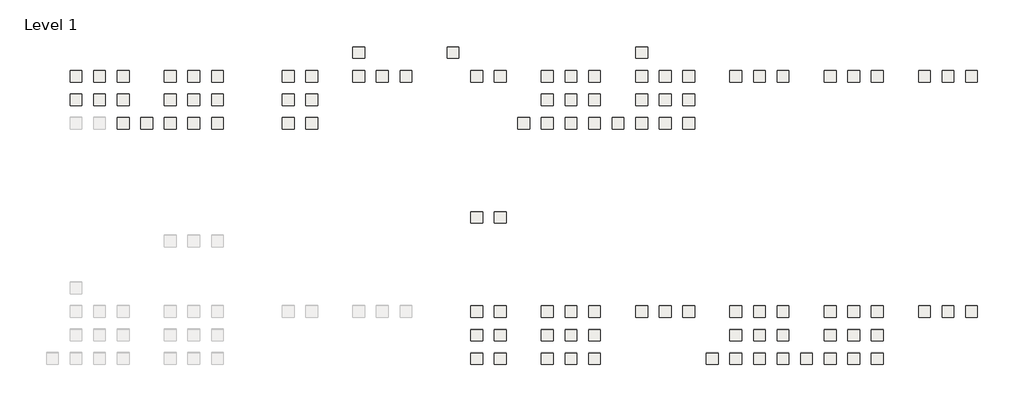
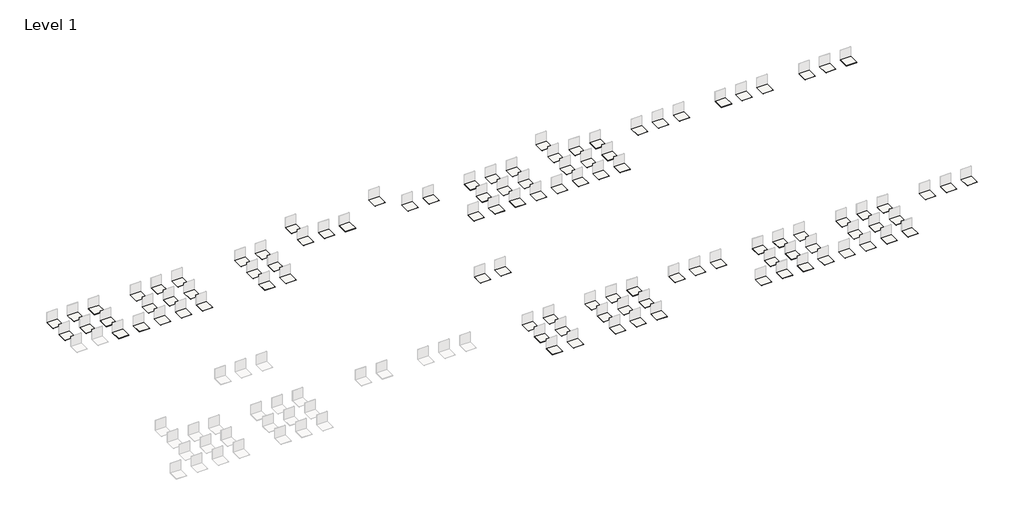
# One storey, part 4 of 4: 103 coverings.
"""IFC4 building model written with IfcOpenShell, lengths in millimetres."""

import ifcopenshell
import ifcopenshell.guid

model = None  # the IFC model being written
_history = None  # IfcOwnerHistory: only IFC2X3 demands one
_inside = {}  # id of a spatial element -> (the spatial element, [elements in it])
_under = {}  # id of a project, library or spatial element -> (it, [spatial elements below it])
_declared = {}  # id of a project -> (the project, [libraries it declares])
_typed = {}  # id of a type object -> (the type object, [elements of that type])
_made_of = {}  # id of a material, layer set ... -> (it, [elements and type objects made of it])


def new_model(schema):
    """Start an empty IFC model of exactly this schema.

    Asked for "IFC4X3", IfcOpenShell would pick the latest addendum, in which some entities
    have other attributes; the version numbers below select the first issue.
    IFC2X3 requires an IfcOwnerHistory on every rooted entity: one is made here for all.
    """
    global model, _history
    if schema == "IFC4X3":
        model = ifcopenshell.file(schema_version=(4, 3, 0, 0))
    else:
        model = ifcopenshell.file(schema=schema)
    _inside.clear()
    _under.clear()
    _declared.clear()
    _typed.clear()
    _made_of.clear()
    _history = None
    if model.schema == "IFC2X3":
        org = make("IfcOrganization", Name="unknown")
        user = make(
            "IfcPersonAndOrganization",
            ThePerson=make("IfcPerson", FamilyName="unknown"),
            TheOrganization=org,
        )
        app = make(
            "IfcApplication",
            ApplicationDeveloper=org,
            Version="unknown",
            ApplicationFullName="unknown",
            ApplicationIdentifier="unknown",
        )
        _history = make(
            "IfcOwnerHistory",
            OwningUser=user,
            OwningApplication=app,
            ChangeAction="ADDED",
            CreationDate=0,
        )
    return model


def make(cls, **values):
    """One entity of the class cls with the attributes given. An attribute that is None is left unset."""
    return model.create_entity(
        cls, **{name: value for name, value in values.items() if value is not None}
    )


def rooted(cls, **values):
    """An entity with a GlobalId (a new one), such as an element, a storey or a relation."""
    return make(cls, GlobalId=ifcopenshell.guid.new(), OwnerHistory=_history, **values)


def si_unit(unit_type, name, prefix=None):
    """IfcSIUnit, for example si_unit("LENGTHUNIT", "METRE", prefix="MILLI")."""
    return make("IfcSIUnit", UnitType=unit_type, Prefix=prefix, Name=name)


def assignment(units):
    """IfcUnitAssignment: the units of a project."""
    return None if units is None else make("IfcUnitAssignment", Units=units)


def point(xyz):
    """IfcCartesianPoint."""
    return None if xyz is None else make("IfcCartesianPoint", Coordinates=xyz)


def direction(xyz):
    """IfcDirection."""
    return None if xyz is None else make("IfcDirection", DirectionRatios=xyz)


def frame(location, z_axis=None, x_axis=None):
    """IfcAxis2Placement3D, a coordinate frame: its origin and axes. An axis left out is left unset."""
    return make(
        "IfcAxis2Placement3D",
        Location=point(location),
        Axis=direction(z_axis),
        RefDirection=direction(x_axis),
    )


def origin():
    """The frame at (0, 0, 0) with its axes left unset."""
    return frame((0.0, 0.0, 0.0))


def place(relative_to, where):
    """IfcLocalPlacement: puts the frame where relative to a parent placement (None: the world)."""
    return make(
        "IfcLocalPlacement", PlacementRelTo=relative_to, RelativePlacement=where
    )


def context(
    kind, dimensions, precision=None, world=None, true_north=None, identifier=None
):
    """IfcGeometricRepresentationContext, for example the 3D "Model" context."""
    return make(
        "IfcGeometricRepresentationContext",
        ContextIdentifier=identifier,
        ContextType=kind,
        CoordinateSpaceDimension=dimensions,
        Precision=precision,
        WorldCoordinateSystem=world,
        TrueNorth=true_north,
    )


def project(units=None, contexts=None):
    """IfcProject with its units and contexts."""
    return rooted(
        "IfcProject",
        Name="project",
        RepresentationContexts=contexts,
        UnitsInContext=assignment(units),
    )


def spatial(cls, under=None, at=None, **own):
    """A site, building, storey or space (cls), placed at a placement, below another one or the project."""
    s = rooted(cls, ObjectPlacement=at, **own)
    if under is not None:
        _under.setdefault(under.id(), (under, []))[1].append(s)
    return s


def polyline(points):
    """IfcPolyline through the points."""
    return make("IfcPolyline", Points=[point(p) for p in points])


def outline(outer, holes=None, kind="AREA"):
    """IfcArbitraryClosedProfileDef: a profile drawn as a closed curve; with holes, ...WithVoids."""
    if holes is None:
        return make("IfcArbitraryClosedProfileDef", ProfileType=kind, OuterCurve=outer)
    return make(
        "IfcArbitraryProfileDefWithVoids",
        ProfileType=kind,
        OuterCurve=outer,
        InnerCurves=holes,
    )


def extrude(swept, where, along, depth):
    """IfcExtrudedAreaSolid: the profile swept, set in the frame where, extruded along a direction by depth."""
    return make(
        "IfcExtrudedAreaSolid",
        SweptArea=swept,
        Position=where,
        ExtrudedDirection=direction(along),
        Depth=depth,
    )


def shape(context_of_items, identifier, shape_type, items):
    """IfcShapeRepresentation: the items that make up one representation, for example the "Body"."""
    return make(
        "IfcShapeRepresentation",
        ContextOfItems=context_of_items,
        RepresentationIdentifier=identifier,
        RepresentationType=shape_type,
        Items=items,
    )


def made_of(thing, what):
    """Note that an element or type object is made of a material, layer set ...; save() writes the relation."""
    if what is not None:
        _made_of.setdefault(what.id(), (what, []))[1].append(thing)
    return thing


def element(
    cls,
    number,
    at=None,
    inside=None,
    cuts=None,
    type_object=None,
    material=None,
    context=None,
    identifier="Body",
    shape_type=None,
    held_by="IfcProductDefinitionShape",
    body=None,
    shapes=None,
    **own,
):
    """One element of the class cls, such as IfcWall. Its Tag is "e" and its number.

    at: its placement. inside: the storey or other place that contains it. cuts: it is an
    opening in that element (IfcRelVoidsElement). A single representation is given by context,
    identifier, shape_type and body (its items); several are given by shapes. held_by: the class
    of the entity that holds the representations. save() writes the other relations.
    """
    e = rooted(cls, Tag="e%d" % number, ObjectPlacement=at, **own)
    if body is not None:
        shapes = [shape(context, identifier, shape_type, body)]
    if shapes is not None:
        e.Representation = make(held_by, Representations=shapes)
    if inside is not None:
        _inside.setdefault(inside.id(), (inside, []))[1].append(e)
    if cuts is not None:
        rooted(
            "IfcRelVoidsElement", RelatingBuildingElement=cuts, RelatedOpeningElement=e
        )
    if type_object is not None:
        _typed.setdefault(type_object.id(), (type_object, []))[1].append(e)
    return made_of(e, material)


def aggregate(whole, parts):
    """IfcRelAggregates: a whole, such as a stair, and the parts it consists of."""
    return rooted("IfcRelAggregates", RelatingObject=whole, RelatedObjects=parts)


def save(model, path):
    """Write the relations noted so far, then the file.

    IfcRelAggregates (storeys below a building ...), IfcRelContainedInSpatialStructure (elements
    in a storey), IfcRelDefinesByType, IfcRelAssociatesMaterial and IfcRelDeclares: one each for
    every whole, place, type object, material and project.
    """
    for whole, parts in _under.values():
        aggregate(whole, parts)
    for where, things in _inside.values():
        rooted(
            "IfcRelContainedInSpatialStructure",
            RelatedElements=things,
            RelatingStructure=where,
        )
    for kind, things in _typed.values():
        rooted("IfcRelDefinesByType", RelatedObjects=things, RelatingType=kind)
    for what, things in _made_of.values():
        rooted("IfcRelAssociatesMaterial", RelatedObjects=things, RelatingMaterial=what)
    for by, libraries in _declared.values():
        rooted("IfcRelDeclares", RelatingContext=by, RelatedDefinitions=libraries)
    model.write(path)


model = new_model("IFC4")

# Units and contexts
model_context = context("Model", 3, world=origin())
ifc_project = project(units=[si_unit("LENGTHUNIT", "METRE", prefix="MILLI")], contexts=[model_context])

# Site, building, storey
site = spatial("IfcSite", under=ifc_project)
building = spatial("IfcBuilding", under=site)
storey = spatial("IfcBuildingStorey", under=building, Name="Level 1", Elevation=0.0)

# Coverings
placement = place(None, origin())
element("IfcCovering", 1, ObjectType="REVIGRÉS-CROMATICA-BASE-29,7x59,2-MATTRECT-Cromatica_alloy", at=placement, inside=storey, context=model_context, shape_type="SweptSolid", body=[
    extrude(outline(polyline([(3002.0475963, 28398.4324289), (2002.0475963, 28398.4324289), (2002.0475963, 29398.4324289), (3002.0475963, 29398.4324289), (3002.0475963, 28398.4324289)])), frame((0.0, 0.0, -8.5), z_axis=(0.0, 0.0, 1.0), x_axis=(1.0, 0.0, 0.0)), (0.0, 0.0, 1.0), 8.5),
])
element("IfcCovering", 2, ObjectType="REVIGRÉS-CROMATICA-BASE-59,2x59,2-MATTRECT-Cromatica_alloy", at=placement, inside=storey, context=model_context, shape_type="SweptSolid", body=[
    extrude(outline(polyline([(3002.0475963, 30398.4324289), (2002.0475963, 30398.4324289), (2002.0475963, 31398.4324289), (3002.0475963, 31398.4324289), (3002.0475963, 30398.4324289)])), frame((0.0, 0.0, -8.5), z_axis=(0.0, 0.0, 1.0), x_axis=(1.0, 0.0, 0.0)), (0.0, 0.0, 1.0), 8.5),
])
element("IfcCovering", 3, ObjectType="REVIGRÉS-CROMATICA-BASE-29,7x59,2-POL-Cromatica_alloy", at=placement, inside=storey, context=model_context, shape_type="SweptSolid", body=[
    extrude(outline(polyline([(5002.0475963, 28398.4324289), (4002.0475963, 28398.4324289), (4002.0475963, 29398.4324289), (5002.0475963, 29398.4324289), (5002.0475963, 28398.4324289)])), frame((0.0, 0.0, -8.0), z_axis=(0.0, 0.0, 1.0), x_axis=(1.0, 0.0, 0.0)), (0.0, 0.0, 1.0), 8.0),
])
element("IfcCovering", 4, ObjectType="REVIGRÉS-CROMATICA-BASE-59,2x59,2-POL-Cromatica_alloy", at=placement, inside=storey, context=model_context, shape_type="SweptSolid", body=[
    extrude(outline(polyline([(5002.0475963, 30398.4324289), (4002.0475963, 30398.4324289), (4002.0475963, 31398.4324289), (5002.0475963, 31398.4324289), (5002.0475963, 30398.4324289)])), frame((0.0, 0.0, -8.0), z_axis=(0.0, 0.0, 1.0), x_axis=(1.0, 0.0, 0.0)), (0.0, 0.0, 1.0), 8.0),
])
element("IfcCovering", 5, ObjectType="REVIGRÉS-CROMATICA-BASE-29,7x29,7-SOFT-Cromatica_alloy", at=placement, inside=storey, context=model_context, shape_type="SweptSolid", body=[
    extrude(outline(polyline([(7002.0475963, 26398.4324289), (6002.0475963, 26398.4324289), (6002.0475963, 27398.4324289), (7002.0475963, 27398.4324289), (7002.0475963, 26398.4324289)])), frame((0.0, 0.0, -8.5), z_axis=(0.0, 0.0, 1.0), x_axis=(1.0, 0.0, 0.0)), (0.0, 0.0, 1.0), 8.5),
])
element("IfcCovering", 6, ObjectType="REVIGRÉS-CROMATICA-BASE-29,7x59,2-SOFT-Cromatica_alloy", at=placement, inside=storey, context=model_context, shape_type="SweptSolid", body=[
    extrude(outline(polyline([(7002.0475963, 28398.4324289), (6002.0475963, 28398.4324289), (6002.0475963, 29398.4324289), (7002.0475963, 29398.4324289), (7002.0475963, 28398.4324289)])), frame((0.0, 0.0, -8.5), z_axis=(0.0, 0.0, 1.0), x_axis=(1.0, 0.0, 0.0)), (0.0, 0.0, 1.0), 8.5),
])
element("IfcCovering", 7, ObjectType="REVIGRÉS-CROMATICA-BASE-59,2x59,2-SOFT-Cromatica_alloy", at=placement, inside=storey, context=model_context, shape_type="SweptSolid", body=[
    extrude(outline(polyline([(7002.0475963, 30398.4324289), (6002.0475963, 30398.4324289), (6002.0475963, 31398.4324289), (7002.0475963, 31398.4324289), (7002.0475963, 30398.4324289)])), frame((0.0, 0.0, -8.5), z_axis=(0.0, 0.0, 1.0), x_axis=(1.0, 0.0, 0.0)), (0.0, 0.0, 1.0), 8.5),
])
element("IfcCovering", 8, ObjectType="REVIGRÉS-CROMATICA-BASE-29,7x29,7-MATTRECT-Cromatica_anis", at=placement, inside=storey, context=model_context, shape_type="SweptSolid", body=[
    extrude(outline(polyline([(11002.0475963, 26398.4324289), (10002.0475963, 26398.4324289), (10002.0475963, 27398.4324289), (11002.0475963, 27398.4324289), (11002.0475963, 26398.4324289)])), frame((0.0, 0.0, -8.5), z_axis=(0.0, 0.0, 1.0), x_axis=(1.0, 0.0, 0.0)), (0.0, 0.0, 1.0), 8.5),
])
element("IfcCovering", 9, ObjectType="REVIGRÉS-CROMATICA-BASE-29,7x59,2-MATTRECT-Cromatica_anis", at=placement, inside=storey, context=model_context, shape_type="SweptSolid", body=[
    extrude(outline(polyline([(11002.0475963, 28398.4324289), (10002.0475963, 28398.4324289), (10002.0475963, 29398.4324289), (11002.0475963, 29398.4324289), (11002.0475963, 28398.4324289)])), frame((0.0, 0.0, -8.5), z_axis=(0.0, 0.0, 1.0), x_axis=(1.0, 0.0, 0.0)), (0.0, 0.0, 1.0), 8.5),
])
element("IfcCovering", 10, ObjectType="REVIGRÉS-CROMATICA-BASE-59,2x59,2-MATTRECT-Cromatica_anis", at=placement, inside=storey, context=model_context, shape_type="SweptSolid", body=[
    extrude(outline(polyline([(11002.0475963, 30398.4324289), (10002.0475963, 30398.4324289), (10002.0475963, 31398.4324289), (11002.0475963, 31398.4324289), (11002.0475963, 30398.4324289)])), frame((0.0, 0.0, -8.5), z_axis=(0.0, 0.0, 1.0), x_axis=(1.0, 0.0, 0.0)), (0.0, 0.0, 1.0), 8.5),
])
element("IfcCovering", 11, ObjectType="REVIGRÉS-CROMATICA-BASE-29,7x29,7-POL-Cromatica_anis", at=placement, inside=storey, context=model_context, shape_type="SweptSolid", body=[
    extrude(outline(polyline([(13002.0475963, 26398.4324289), (12002.0475963, 26398.4324289), (12002.0475963, 27398.6824289), (13002.0475963, 27398.6824289), (13002.0475963, 26398.4324289)])), frame((0.0, 0.0, -8.0), z_axis=(0.0, 0.0, 1.0), x_axis=(1.0, 0.0, 0.0)), (0.0, 0.0, 1.0), 8.0),
])
element("IfcCovering", 12, ObjectType="REVIGRÉS-CROMATICA-BASE-29,7x59,2-POL-Cromatica_anis", at=placement, inside=storey, context=model_context, shape_type="SweptSolid", body=[
    extrude(outline(polyline([(13002.0475963, 28398.4324289), (12002.0475963, 28398.4324289), (12002.0475963, 29398.4324289), (13002.0475963, 29398.4324289), (13002.0475963, 28398.4324289)])), frame((0.0, 0.0, -8.0), z_axis=(0.0, 0.0, 1.0), x_axis=(1.0, 0.0, 0.0)), (0.0, 0.0, 1.0), 8.0),
])
element("IfcCovering", 13, ObjectType="REVIGRÉS-CROMATICA-BASE-59,2x59,2-POL-Cromatica_anis", at=placement, inside=storey, context=model_context, shape_type="SweptSolid", body=[
    extrude(outline(polyline([(13002.0475963, 30398.4324289), (12002.0475963, 30398.4324289), (12002.0475963, 31398.4324289), (13002.0475963, 31398.4324289), (13002.0475963, 30398.4324289)])), frame((0.0, 0.0, -8.0), z_axis=(0.0, 0.0, 1.0), x_axis=(1.0, 0.0, 0.0)), (0.0, 0.0, 1.0), 8.0),
])
element("IfcCovering", 14, ObjectType="REVIGRÉS-CROMATICA-BASE-29,7x29,7-SOFT-Cromatica_anis", at=placement, inside=storey, context=model_context, shape_type="SweptSolid", body=[
    extrude(outline(polyline([(15002.0475963, 26398.4324289), (14002.0475963, 26398.4324289), (14002.0475963, 27398.4324289), (15002.0475963, 27398.4324289), (15002.0475963, 26398.4324289)])), frame((0.0, 0.0, -8.5), z_axis=(0.0, 0.0, 1.0), x_axis=(1.0, 0.0, 0.0)), (0.0, 0.0, 1.0), 8.5),
])
element("IfcCovering", 15, ObjectType="REVIGRÉS-CROMATICA-BASE-29,7x59,2-SOFT-Cromatica_anis", at=placement, inside=storey, context=model_context, shape_type="SweptSolid", body=[
    extrude(outline(polyline([(15002.0475963, 28398.4324289), (14002.0475963, 28398.4324289), (14002.0475963, 29398.4324289), (15002.0475963, 29398.4324289), (15002.0475963, 28398.4324289)])), frame((0.0, 0.0, -8.5), z_axis=(0.0, 0.0, 1.0), x_axis=(1.0, 0.0, 0.0)), (0.0, 0.0, 1.0), 8.5),
])
element("IfcCovering", 16, ObjectType="REVIGRÉS-CROMATICA-BASE-59,2x59,2-SOFT-Cromatica_anis", at=placement, inside=storey, context=model_context, shape_type="SweptSolid", body=[
    extrude(outline(polyline([(15002.0475963, 30398.4324289), (14002.0475963, 30398.4324289), (14002.0475963, 31398.4324289), (15002.0475963, 31398.4324289), (15002.0475963, 30398.4324289)])), frame((0.0, 0.0, -8.5), z_axis=(0.0, 0.0, 1.0), x_axis=(1.0, 0.0, 0.0)), (0.0, 0.0, 1.0), 8.5),
])
element("IfcCovering", 17, ObjectType="REVIGRÉS-CROMATICA-BASE-29,7x29,7-POL-Cromatica_antracite", at=placement, inside=storey, context=model_context, shape_type="SweptSolid", body=[
    extrude(outline(polyline([(21002.0475963, 26398.4324289), (20002.0475963, 26398.4324289), (20002.0475963, 27398.6824289), (21002.0475963, 27398.6824289), (21002.0475963, 26398.4324289)])), frame((0.0, 0.0, -8.0), z_axis=(0.0, 0.0, 1.0), x_axis=(1.0, 0.0, 0.0)), (0.0, 0.0, 1.0), 8.0),
])
element("IfcCovering", 18, ObjectType="REVIGRÉS-CROMATICA-BASE-29,7x59,2-POL-Cromatica_antracite", at=placement, inside=storey, context=model_context, shape_type="SweptSolid", body=[
    extrude(outline(polyline([(21002.0475963, 28398.4324289), (20002.0475963, 28398.4324289), (20002.0475963, 29398.4324289), (21002.0475963, 29398.4324289), (21002.0475963, 28398.4324289)])), frame((0.0, 0.0, -8.0), z_axis=(0.0, 0.0, 1.0), x_axis=(1.0, 0.0, 0.0)), (0.0, 0.0, 1.0), 8.0),
])
element("IfcCovering", 19, ObjectType="REVIGRÉS-CROMATICA-BASE-59,2x59,2-POL-Cromatica_antracite", at=placement, inside=storey, context=model_context, shape_type="SweptSolid", body=[
    extrude(outline(polyline([(21002.0475963, 30398.4324289), (20002.0475963, 30398.4324289), (20002.0475963, 31398.4324289), (21002.0475963, 31398.4324289), (21002.0475963, 30398.4324289)])), frame((0.0, 0.0, -8.0), z_axis=(0.0, 0.0, 1.0), x_axis=(1.0, 0.0, 0.0)), (0.0, 0.0, 1.0), 8.0),
])
element("IfcCovering", 20, ObjectType="REVIGRÉS-CROMATICA-BASE-29,7x29,7-SOFT-Cromatica_antracite", at=placement, inside=storey, context=model_context, shape_type="SweptSolid", body=[
    extrude(outline(polyline([(23002.0475963, 26398.4324289), (22002.0475963, 26398.4324289), (22002.0475963, 27398.4324289), (23002.0475963, 27398.4324289), (23002.0475963, 26398.4324289)])), frame((0.0, 0.0, -8.5), z_axis=(0.0, 0.0, 1.0), x_axis=(1.0, 0.0, 0.0)), (0.0, 0.0, 1.0), 8.5),
])
element("IfcCovering", 21, ObjectType="REVIGRÉS-CROMATICA-BASE-29,7x59,2-SOFT-Cromatica_antracite", at=placement, inside=storey, context=model_context, shape_type="SweptSolid", body=[
    extrude(outline(polyline([(23002.0475963, 28398.4324289), (22002.0475963, 28398.4324289), (22002.0475963, 29398.4324289), (23002.0475963, 29398.4324289), (23002.0475963, 28398.4324289)])), frame((0.0, 0.0, -8.5), z_axis=(0.0, 0.0, 1.0), x_axis=(1.0, 0.0, 0.0)), (0.0, 0.0, 1.0), 8.5),
])
element("IfcCovering", 22, ObjectType="REVIGRÉS-CROMATICA-BASE-59,2x59,2-SOFT-Cromatica_antracite", at=placement, inside=storey, context=model_context, shape_type="SweptSolid", body=[
    extrude(outline(polyline([(23002.0475963, 30398.4324289), (22002.0475963, 30398.4324289), (22002.0475963, 31398.4324289), (23002.0475963, 31398.4324289), (23002.0475963, 30398.4324289)])), frame((0.0, 0.0, -8.5), z_axis=(0.0, 0.0, 1.0), x_axis=(1.0, 0.0, 0.0)), (0.0, 0.0, 1.0), 8.5),
])
element("IfcCovering", 23, ObjectType="REVIGRÉS-CROMATICA-BASE-59,2x59,2-MATTRECT-Cromatica_arg prata", at=placement, inside=storey, context=model_context, shape_type="SweptSolid", body=[
    extrude(outline(polyline([(27002.0475963, 30398.4324289), (26002.0475963, 30398.4324289), (26002.0475963, 31398.4324289), (27002.0475963, 31398.4324289), (27002.0475963, 30398.4324289)])), frame((0.0, 0.0, -8.5), z_axis=(0.0, 0.0, 1.0), x_axis=(1.0, 0.0, 0.0)), (0.0, 0.0, 1.0), 8.5),
])
element("IfcCovering", 24, ObjectType="REVIGRÉS-CROMATICA-BASE-59,2x59,2_14mm-MATTRECT-Cromatica_arg prata", at=placement, inside=storey, context=model_context, shape_type="SweptSolid", body=[
    extrude(outline(polyline([(27002.0475963, 32398.4324289), (26002.0475963, 32398.4324289), (26002.0475963, 33398.4324289), (27002.0475963, 33398.4324289), (27002.0475963, 32398.4324289)])), frame((0.0, 0.0, -14.0), z_axis=(0.0, 0.0, 1.0), x_axis=(1.0, 0.0, 0.0)), (0.0, 0.0, 1.0), 14.0),
])
element("IfcCovering", 25, ObjectType="REVIGRÉS-CROMATICA-BASE-59,2x59,2-POL-Cromatica_arg prata", at=placement, inside=storey, context=model_context, shape_type="SweptSolid", body=[
    extrude(outline(polyline([(29002.0475963, 30398.4324289), (28002.0475963, 30398.4324289), (28002.0475963, 31398.4324289), (29002.0475963, 31398.4324289), (29002.0475963, 30398.4324289)])), frame((0.0, 0.0, -8.0), z_axis=(0.0, 0.0, 1.0), x_axis=(1.0, 0.0, 0.0)), (0.0, 0.0, 1.0), 8.0),
])
element("IfcCovering", 26, ObjectType="REVIGRÉS-CROMATICA-BASE-59,2x59,2-SOFT-Cromatica_arg prata", at=placement, inside=storey, context=model_context, shape_type="SweptSolid", body=[
    extrude(outline(polyline([(31002.0475963, 30398.4324289), (30002.0475963, 30398.4324289), (30002.0475963, 31398.4324289), (31002.0475963, 31398.4324289), (31002.0475963, 30398.4324289)])), frame((0.0, 0.0, -8.5), z_axis=(0.0, 0.0, 1.0), x_axis=(1.0, 0.0, 0.0)), (0.0, 0.0, 1.0), 8.5),
])
element("IfcCovering", 27, ObjectType="REVIGRÉS-CROMATICA-BASE-59,2x59,2_14mm-MATTRECT-Cromatica_astral", at=placement, inside=storey, context=model_context, shape_type="SweptSolid", body=[
    extrude(outline(polyline([(35002.0475963, 32398.4324289), (34002.0475963, 32398.4324289), (34002.0475963, 33398.4324289), (35002.0475963, 33398.4324289), (35002.0475963, 32398.4324289)])), frame((0.0, 0.0, -14.0), z_axis=(0.0, 0.0, 1.0), x_axis=(1.0, 0.0, 0.0)), (0.0, 0.0, 1.0), 14.0),
])
element("IfcCovering", 28, ObjectType="REVIGRÉS-CROMATICA-BASE-59,2x59,2-POL-Cromatica_astral", at=placement, inside=storey, context=model_context, shape_type="SweptSolid", body=[
    extrude(outline(polyline([(37002.0475963, 30398.4324289), (36002.0475963, 30398.4324289), (36002.0475963, 31398.4324289), (37002.0475963, 31398.4324289), (37002.0475963, 30398.4324289)])), frame((0.0, 0.0, -8.0), z_axis=(0.0, 0.0, 1.0), x_axis=(1.0, 0.0, 0.0)), (0.0, 0.0, 1.0), 8.0),
])
element("IfcCovering", 29, ObjectType="REVIGRÉS-CROMATICA-BASE-59,2x59,2-SOFT-Cromatica_astral", at=placement, inside=storey, context=model_context, shape_type="SweptSolid", body=[
    extrude(outline(polyline([(39002.0475963, 30398.4324289), (38002.0475963, 30398.4324289), (38002.0475963, 31398.4324289), (39002.0475963, 31398.4324289), (39002.0475963, 30398.4324289)])), frame((0.0, 0.0, -8.5), z_axis=(0.0, 0.0, 1.0), x_axis=(1.0, 0.0, 0.0)), (0.0, 0.0, 1.0), 8.5),
])
element("IfcCovering", 30, ObjectType="REVIGRÉS-CROMATICA-BASE-29,7x29,7-MATTRECT-Cromatica_bege", at=placement, inside=storey, context=model_context, shape_type="SweptSolid", body=[
    extrude(outline(polyline([(43002.0475963, 26398.4324289), (42002.0475963, 26398.4324289), (42002.0475963, 27398.4324289), (43002.0475963, 27398.4324289), (43002.0475963, 26398.4324289)])), frame((0.0, 0.0, -8.5), z_axis=(0.0, 0.0, 1.0), x_axis=(1.0, 0.0, 0.0)), (0.0, 0.0, 1.0), 8.5),
])
element("IfcCovering", 31, ObjectType="REVIGRÉS-CROMATICA-BASE-29,7x59,2-MATTRECT-Cromatica_bege", at=placement, inside=storey, context=model_context, shape_type="SweptSolid", body=[
    extrude(outline(polyline([(43002.0475963, 28398.4324289), (42002.0475963, 28398.4324289), (42002.0475963, 29398.4324289), (43002.0475963, 29398.4324289), (43002.0475963, 28398.4324289)])), frame((0.0, 0.0, -8.5), z_axis=(0.0, 0.0, 1.0), x_axis=(1.0, 0.0, 0.0)), (0.0, 0.0, 1.0), 8.5),
])
element("IfcCovering", 32, ObjectType="REVIGRÉS-CROMATICA-BASE-59,2x59,2-MATTRECT-Cromatica_bege", at=placement, inside=storey, context=model_context, shape_type="SweptSolid", body=[
    extrude(outline(polyline([(43002.0475963, 30398.4324289), (42002.0475963, 30398.4324289), (42002.0475963, 31398.4324289), (43002.0475963, 31398.4324289), (43002.0475963, 30398.4324289)])), frame((0.0, 0.0, -8.5), z_axis=(0.0, 0.0, 1.0), x_axis=(1.0, 0.0, 0.0)), (0.0, 0.0, 1.0), 8.5),
])
element("IfcCovering", 33, ObjectType="REVIGRÉS-CROMATICA-BASE-29,7x29,7-POL-Cromatica_bege", at=placement, inside=storey, context=model_context, shape_type="SweptSolid", body=[
    extrude(outline(polyline([(45002.0475963, 26398.4324289), (44002.0475963, 26398.4324289), (44002.0475963, 27398.6824289), (45002.0475963, 27398.6824289), (45002.0475963, 26398.4324289)])), frame((0.0, 0.0, -8.0), z_axis=(0.0, 0.0, 1.0), x_axis=(1.0, 0.0, 0.0)), (0.0, 0.0, 1.0), 8.0),
])
element("IfcCovering", 34, ObjectType="REVIGRÉS-CROMATICA-BASE-29,7x59,2-POL-Cromatica_bege", at=placement, inside=storey, context=model_context, shape_type="SweptSolid", body=[
    extrude(outline(polyline([(45002.0475963, 28398.4324289), (44002.0475963, 28398.4324289), (44002.0475963, 29398.4324289), (45002.0475963, 29398.4324289), (45002.0475963, 28398.4324289)])), frame((0.0, 0.0, -8.0), z_axis=(0.0, 0.0, 1.0), x_axis=(1.0, 0.0, 0.0)), (0.0, 0.0, 1.0), 8.0),
])
element("IfcCovering", 35, ObjectType="REVIGRÉS-CROMATICA-BASE-59,2x59,2-POL-Cromatica_bege", at=placement, inside=storey, context=model_context, shape_type="SweptSolid", body=[
    extrude(outline(polyline([(45002.0475963, 30398.4324289), (44002.0475963, 30398.4324289), (44002.0475963, 31398.4324289), (45002.0475963, 31398.4324289), (45002.0475963, 30398.4324289)])), frame((0.0, 0.0, -8.0), z_axis=(0.0, 0.0, 1.0), x_axis=(1.0, 0.0, 0.0)), (0.0, 0.0, 1.0), 8.0),
])
element("IfcCovering", 36, ObjectType="REVIGRÉS-CROMATICA-BASE-29,7x29,7-SOFT-Cromatica_bege", at=placement, inside=storey, context=model_context, shape_type="SweptSolid", body=[
    extrude(outline(polyline([(47002.0475963, 26398.4324289), (46002.0475963, 26398.4324289), (46002.0475963, 27398.4324289), (47002.0475963, 27398.4324289), (47002.0475963, 26398.4324289)])), frame((0.0, 0.0, -8.5), z_axis=(0.0, 0.0, 1.0), x_axis=(1.0, 0.0, 0.0)), (0.0, 0.0, 1.0), 8.5),
])
element("IfcCovering", 37, ObjectType="REVIGRÉS-CROMATICA-BASE-29,7x59,2-SOFT-Cromatica_bege", at=placement, inside=storey, context=model_context, shape_type="SweptSolid", body=[
    extrude(outline(polyline([(47002.0475963, 28398.4324289), (46002.0475963, 28398.4324289), (46002.0475963, 29398.4324289), (47002.0475963, 29398.4324289), (47002.0475963, 28398.4324289)])), frame((0.0, 0.0, -8.5), z_axis=(0.0, 0.0, 1.0), x_axis=(1.0, 0.0, 0.0)), (0.0, 0.0, 1.0), 8.5),
])
element("IfcCovering", 38, ObjectType="REVIGRÉS-CROMATICA-BASE-59,2x59,2-SOFT-Cromatica_bege", at=placement, inside=storey, context=model_context, shape_type="SweptSolid", body=[
    extrude(outline(polyline([(47002.0475963, 30398.4324289), (46002.0475963, 30398.4324289), (46002.0475963, 31398.4324289), (47002.0475963, 31398.4324289), (47002.0475963, 30398.4324289)])), frame((0.0, 0.0, -8.5), z_axis=(0.0, 0.0, 1.0), x_axis=(1.0, 0.0, 0.0)), (0.0, 0.0, 1.0), 8.5),
])
element("IfcCovering", 39, ObjectType="REVIGRÉS-CROMATICA-BASE-29,7x29,7-MATTRECT-Cromatica_bone", at=placement, inside=storey, context=model_context, shape_type="SweptSolid", body=[
    extrude(outline(polyline([(51002.0475963, 26398.4324289), (50002.0475963, 26398.4324289), (50002.0475963, 27398.4324289), (51002.0475963, 27398.4324289), (51002.0475963, 26398.4324289)])), frame((0.0, 0.0, -8.5), z_axis=(0.0, 0.0, 1.0), x_axis=(1.0, 0.0, 0.0)), (0.0, 0.0, 1.0), 8.5),
])
element("IfcCovering", 40, ObjectType="REVIGRÉS-CROMATICA-BASE-29,7x59,2-MATTRECT-Cromatica_bone", at=placement, inside=storey, context=model_context, shape_type="SweptSolid", body=[
    extrude(outline(polyline([(51002.0475963, 28398.4324289), (50002.0475963, 28398.4324289), (50002.0475963, 29398.4324289), (51002.0475963, 29398.4324289), (51002.0475963, 28398.4324289)])), frame((0.0, 0.0, -8.5), z_axis=(0.0, 0.0, 1.0), x_axis=(1.0, 0.0, 0.0)), (0.0, 0.0, 1.0), 8.5),
])
element("IfcCovering", 41, ObjectType="REVIGRÉS-CROMATICA-BASE-59,2x59,2-MATTRECT-Cromatica_bone", at=placement, inside=storey, context=model_context, shape_type="SweptSolid", body=[
    extrude(outline(polyline([(51002.0475963, 30398.4324289), (50002.0475963, 30398.4324289), (50002.0475963, 31398.4324289), (51002.0475963, 31398.4324289), (51002.0475963, 30398.4324289)])), frame((0.0, 0.0, -8.5), z_axis=(0.0, 0.0, 1.0), x_axis=(1.0, 0.0, 0.0)), (0.0, 0.0, 1.0), 8.5),
])
element("IfcCovering", 42, ObjectType="REVIGRÉS-CROMATICA-BASE-59,2x59,2_14mm-MATTRECT-Cromatica_bone", at=placement, inside=storey, context=model_context, shape_type="SweptSolid", body=[
    extrude(outline(polyline([(51002.0475963, 32398.4324289), (50002.0475963, 32398.4324289), (50002.0475963, 33398.4324289), (51002.0475963, 33398.4324289), (51002.0475963, 32398.4324289)])), frame((0.0, 0.0, -14.0), z_axis=(0.0, 0.0, 1.0), x_axis=(1.0, 0.0, 0.0)), (0.0, 0.0, 1.0), 14.0),
])
element("IfcCovering", 43, ObjectType="REVIGRÉS-CROMATICA-BASE-29,7x29,7-POL-Cromatica_bone", at=placement, inside=storey, context=model_context, shape_type="SweptSolid", body=[
    extrude(outline(polyline([(53002.0475963, 26398.4324289), (52002.0475963, 26398.4324289), (52002.0475963, 27398.6824289), (53002.0475963, 27398.6824289), (53002.0475963, 26398.4324289)])), frame((0.0, 0.0, -8.0), z_axis=(0.0, 0.0, 1.0), x_axis=(1.0, 0.0, 0.0)), (0.0, 0.0, 1.0), 8.0),
])
element("IfcCovering", 44, ObjectType="REVIGRÉS-CROMATICA-BASE-29,7x59,2-POL-Cromatica_bone", at=placement, inside=storey, context=model_context, shape_type="SweptSolid", body=[
    extrude(outline(polyline([(53002.0475963, 28398.4324289), (52002.0475963, 28398.4324289), (52002.0475963, 29398.4324289), (53002.0475963, 29398.4324289), (53002.0475963, 28398.4324289)])), frame((0.0, 0.0, -8.0), z_axis=(0.0, 0.0, 1.0), x_axis=(1.0, 0.0, 0.0)), (0.0, 0.0, 1.0), 8.0),
])
element("IfcCovering", 45, ObjectType="REVIGRÉS-CROMATICA-BASE-59,2x59,2-POL-Cromatica_bone", at=placement, inside=storey, context=model_context, shape_type="SweptSolid", body=[
    extrude(outline(polyline([(53002.0475963, 30398.4324289), (52002.0475963, 30398.4324289), (52002.0475963, 31398.4324289), (53002.0475963, 31398.4324289), (53002.0475963, 30398.4324289)])), frame((0.0, 0.0, -8.0), z_axis=(0.0, 0.0, 1.0), x_axis=(1.0, 0.0, 0.0)), (0.0, 0.0, 1.0), 8.0),
])
element("IfcCovering", 46, ObjectType="REVIGRÉS-CROMATICA-BASE-29,7x29,7-SOFT-Cromatica_bone", at=placement, inside=storey, context=model_context, shape_type="SweptSolid", body=[
    extrude(outline(polyline([(55002.0475963, 26398.4324289), (54002.0475963, 26398.4324289), (54002.0475963, 27398.4324289), (55002.0475963, 27398.4324289), (55002.0475963, 26398.4324289)])), frame((0.0, 0.0, -8.5), z_axis=(0.0, 0.0, 1.0), x_axis=(1.0, 0.0, 0.0)), (0.0, 0.0, 1.0), 8.5),
])
element("IfcCovering", 47, ObjectType="REVIGRÉS-CROMATICA-BASE-29,7x59,2-SOFT-Cromatica_bone", at=placement, inside=storey, context=model_context, shape_type="SweptSolid", body=[
    extrude(outline(polyline([(55002.0475963, 28398.4324289), (54002.0475963, 28398.4324289), (54002.0475963, 29398.4324289), (55002.0475963, 29398.4324289), (55002.0475963, 28398.4324289)])), frame((0.0, 0.0, -8.5), z_axis=(0.0, 0.0, 1.0), x_axis=(1.0, 0.0, 0.0)), (0.0, 0.0, 1.0), 8.5),
])
element("IfcCovering", 48, ObjectType="REVIGRÉS-CROMATICA-BASE-59,2x59,2-SOFT-Cromatica_bone", at=placement, inside=storey, context=model_context, shape_type="SweptSolid", body=[
    extrude(outline(polyline([(55002.0475963, 30398.4324289), (54002.0475963, 30398.4324289), (54002.0475963, 31398.4324289), (55002.0475963, 31398.4324289), (55002.0475963, 30398.4324289)])), frame((0.0, 0.0, -8.5), z_axis=(0.0, 0.0, 1.0), x_axis=(1.0, 0.0, 0.0)), (0.0, 0.0, 1.0), 8.5),
])
element("IfcCovering", 49, ObjectType="REVIGRÉS-CROMATICA-BASE-29,7x29,7-MATTNAT-Cromatica_bone", at=placement, inside=storey, context=model_context, shape_type="SweptSolid", body=[
    extrude(outline(polyline([(49002.0475963, 26398.4324289), (48002.0475963, 26398.4324289), (48002.0475963, 27398.0324289), (49002.0475963, 27398.0324289), (49002.0475963, 26398.4324289)])), frame((0.0, 0.0, -8.5), z_axis=(0.0, 0.0, 1.0), x_axis=(1.0, 0.0, 0.0)), (0.0, 0.0, 1.0), 8.5),
])
element("IfcCovering", 50, ObjectType="REVIGRÉS-CROMATICA-BASE-59,2x59,2-MATTRECT-Cromatica_brick", at=placement, inside=storey, context=model_context, shape_type="SweptSolid", body=[
    extrude(outline(polyline([(59002.0475963, 30398.4324289), (58002.0475963, 30398.4324289), (58002.0475963, 31398.4324289), (59002.0475963, 31398.4324289), (59002.0475963, 30398.4324289)])), frame((0.0, 0.0, -8.5), z_axis=(0.0, 0.0, 1.0), x_axis=(1.0, 0.0, 0.0)), (0.0, 0.0, 1.0), 8.5),
])
element("IfcCovering", 51, ObjectType="REVIGRÉS-CROMATICA-BASE-59,2x59,2-POL-Cromatica_brick", at=placement, inside=storey, context=model_context, shape_type="SweptSolid", body=[
    extrude(outline(polyline([(61002.0475963, 30398.4324289), (60002.0475963, 30398.4324289), (60002.0475963, 31398.4324289), (61002.0475963, 31398.4324289), (61002.0475963, 30398.4324289)])), frame((0.0, 0.0, -8.0), z_axis=(0.0, 0.0, 1.0), x_axis=(1.0, 0.0, 0.0)), (0.0, 0.0, 1.0), 8.0),
])
element("IfcCovering", 52, ObjectType="REVIGRÉS-CROMATICA-BASE-59,2x59,2-SOFT-Cromatica_brick", at=placement, inside=storey, context=model_context, shape_type="SweptSolid", body=[
    extrude(outline(polyline([(63002.0475963, 30398.4324289), (62002.0475963, 30398.4324289), (62002.0475963, 31398.4324289), (63002.0475963, 31398.4324289), (63002.0475963, 30398.4324289)])), frame((0.0, 0.0, -8.5), z_axis=(0.0, 0.0, 1.0), x_axis=(1.0, 0.0, 0.0)), (0.0, 0.0, 1.0), 8.5),
])
element("IfcCovering", 53, ObjectType="REVIGRÉS-CROMATICA-BASE-59,2x59,2-MATTRECT-Cromatica_cobalto", at=placement, inside=storey, context=model_context, shape_type="SweptSolid", body=[
    extrude(outline(polyline([(67002.0475963, 30398.4324289), (66002.0475963, 30398.4324289), (66002.0475963, 31398.4324289), (67002.0475963, 31398.4324289), (67002.0475963, 30398.4324289)])), frame((0.0, 0.0, -8.5), z_axis=(0.0, 0.0, 1.0), x_axis=(1.0, 0.0, 0.0)), (0.0, 0.0, 1.0), 8.5),
])
element("IfcCovering", 54, ObjectType="REVIGRÉS-CROMATICA-BASE-59,2x59,2-POL-Cromatica_cobalto", at=placement, inside=storey, context=model_context, shape_type="SweptSolid", body=[
    extrude(outline(polyline([(69002.0475963, 30398.4324289), (68002.0475963, 30398.4324289), (68002.0475963, 31398.4324289), (69002.0475963, 31398.4324289), (69002.0475963, 30398.4324289)])), frame((0.0, 0.0, -8.0), z_axis=(0.0, 0.0, 1.0), x_axis=(1.0, 0.0, 0.0)), (0.0, 0.0, 1.0), 8.0),
])
element("IfcCovering", 55, ObjectType="REVIGRÉS-CROMATICA-BASE-59,2x59,2-SOFT-Cromatica_cobalto", at=placement, inside=storey, context=model_context, shape_type="SweptSolid", body=[
    extrude(outline(polyline([(71002.0475963, 30398.4324289), (70002.0475963, 30398.4324289), (70002.0475963, 31398.4324289), (71002.0475963, 31398.4324289), (71002.0475963, 30398.4324289)])), frame((0.0, 0.0, -8.5), z_axis=(0.0, 0.0, 1.0), x_axis=(1.0, 0.0, 0.0)), (0.0, 0.0, 1.0), 8.5),
])
element("IfcCovering", 56, ObjectType="REVIGRÉS-CROMATICA-BASE-59,2x59,2-MATTRECT-Cromatica_coral", at=placement, inside=storey, context=model_context, shape_type="SweptSolid", body=[
    extrude(outline(polyline([(75002.0475963, 30398.4324289), (74002.0475963, 30398.4324289), (74002.0475963, 31398.4324289), (75002.0475963, 31398.4324289), (75002.0475963, 30398.4324289)])), frame((0.0, 0.0, -8.5), z_axis=(0.0, 0.0, 1.0), x_axis=(1.0, 0.0, 0.0)), (0.0, 0.0, 1.0), 8.5),
])
element("IfcCovering", 57, ObjectType="REVIGRÉS-CROMATICA-BASE-59,2x59,2-POL-Cromatica_coral", at=placement, inside=storey, context=model_context, shape_type="SweptSolid", body=[
    extrude(outline(polyline([(77002.0475963, 30398.4324289), (76002.0475963, 30398.4324289), (76002.0475963, 31398.4324289), (77002.0475963, 31398.4324289), (77002.0475963, 30398.4324289)])), frame((0.0, 0.0, -8.0), z_axis=(0.0, 0.0, 1.0), x_axis=(1.0, 0.0, 0.0)), (0.0, 0.0, 1.0), 8.0),
])
element("IfcCovering", 58, ObjectType="REVIGRÉS-CROMATICA-BASE-59,2x59,2-SOFT-Cromatica_coral", at=placement, inside=storey, context=model_context, shape_type="SweptSolid", body=[
    extrude(outline(polyline([(79002.0475963, 30398.4324289), (78002.0475963, 30398.4324289), (78002.0475963, 31398.4324289), (79002.0475963, 31398.4324289), (79002.0475963, 30398.4324289)])), frame((0.0, 0.0, -8.5), z_axis=(0.0, 0.0, 1.0), x_axis=(1.0, 0.0, 0.0)), (0.0, 0.0, 1.0), 8.5),
])
element("IfcCovering", 59, ObjectType="REVIGRÉS-CROMATICA-BASE-29,7x29,7-POL-Cromatica_jet", at=placement, inside=storey, context=model_context, shape_type="SweptSolid", body=[
    extrude(outline(polyline([(37002.0475963, 6398.432429), (36002.0475963, 6398.432429), (36002.0475963, 7398.682429), (37002.0475963, 7398.682429), (37002.0475963, 6398.432429)])), frame((0.0, 0.0, -8.0), z_axis=(0.0, 0.0, 1.0), x_axis=(1.0, 0.0, 0.0)), (0.0, 0.0, 1.0), 8.0),
])
element("IfcCovering", 60, ObjectType="REVIGRÉS-CROMATICA-BASE-29,7x59,2-POL-Cromatica_jet", at=placement, inside=storey, context=model_context, shape_type="SweptSolid", body=[
    extrude(outline(polyline([(37002.0475963, 8398.432429), (36002.0475963, 8398.432429), (36002.0475963, 9398.432429), (37002.0475963, 9398.432429), (37002.0475963, 8398.432429)])), frame((0.0, 0.0, -8.0), z_axis=(0.0, 0.0, 1.0), x_axis=(1.0, 0.0, 0.0)), (0.0, 0.0, 1.0), 8.0),
])
element("IfcCovering", 61, ObjectType="REVIGRÉS-CROMATICA-BASE-59,2x59,2-POL-Cromatica_jet", at=placement, inside=storey, context=model_context, shape_type="SweptSolid", body=[
    extrude(outline(polyline([(37002.0475963, 10398.432429), (36002.0475963, 10398.432429), (36002.0475963, 11398.432429), (37002.0475963, 11398.432429), (37002.0475963, 10398.432429)])), frame((0.0, 0.0, -8.0), z_axis=(0.0, 0.0, 1.0), x_axis=(1.0, 0.0, 0.0)), (0.0, 0.0, 1.0), 8.0),
])
element("IfcCovering", 62, ObjectType="REVIGRÉS-CROMATICA-BASE-88,9x88,9-POL-Cromatica_jet", at=placement, inside=storey, context=model_context, shape_type="SweptSolid", body=[
    extrude(outline(polyline([(37002.0475963, 18398.432429), (36002.0475963, 18398.432429), (36002.0475963, 19398.432429), (37002.0475963, 19398.432429), (37002.0475963, 18398.432429)])), frame((0.0, 0.0, -9.8), z_axis=(0.0, 0.0, 1.0), x_axis=(1.0, 0.0, 0.0)), (0.0, 0.0, 1.0), 9.8),
])
element("IfcCovering", 63, ObjectType="REVIGRÉS-CROMATICA-BASE-29,7x29,7-SOFT-Cromatica_jet", at=placement, inside=storey, context=model_context, shape_type="SweptSolid", body=[
    extrude(outline(polyline([(39002.0475963, 6398.432429), (38002.0475963, 6398.432429), (38002.0475963, 7398.432429), (39002.0475963, 7398.432429), (39002.0475963, 6398.432429)])), frame((0.0, 0.0, -8.5), z_axis=(0.0, 0.0, 1.0), x_axis=(1.0, 0.0, 0.0)), (0.0, 0.0, 1.0), 8.5),
])
element("IfcCovering", 64, ObjectType="REVIGRÉS-CROMATICA-BASE-29,7x59,2-SOFT-Cromatica_jet", at=placement, inside=storey, context=model_context, shape_type="SweptSolid", body=[
    extrude(outline(polyline([(39002.0475963, 8398.432429), (38002.0475963, 8398.432429), (38002.0475963, 9398.432429), (39002.0475963, 9398.432429), (39002.0475963, 8398.432429)])), frame((0.0, 0.0, -8.5), z_axis=(0.0, 0.0, 1.0), x_axis=(1.0, 0.0, 0.0)), (0.0, 0.0, 1.0), 8.5),
])
element("IfcCovering", 65, ObjectType="REVIGRÉS-CROMATICA-BASE-59,2x59,2-SOFT-Cromatica_jet", at=placement, inside=storey, context=model_context, shape_type="SweptSolid", body=[
    extrude(outline(polyline([(39002.0475963, 10398.432429), (38002.0475963, 10398.432429), (38002.0475963, 11398.432429), (39002.0475963, 11398.432429), (39002.0475963, 10398.432429)])), frame((0.0, 0.0, -8.5), z_axis=(0.0, 0.0, 1.0), x_axis=(1.0, 0.0, 0.0)), (0.0, 0.0, 1.0), 8.5),
])
element("IfcCovering", 66, ObjectType="REVIGRÉS-CROMATICA-BASE-88,9x88,9-SOFT-Cromatica_jet", at=placement, inside=storey, context=model_context, shape_type="SweptSolid", body=[
    extrude(outline(polyline([(39002.0475963, 18398.432429), (38002.0475963, 18398.432429), (38002.0475963, 19398.432429), (39002.0475963, 19398.432429), (39002.0475963, 18398.432429)])), frame((0.0, 0.0, -10.5), z_axis=(0.0, 0.0, 1.0), x_axis=(1.0, 0.0, 0.0)), (0.0, 0.0, 1.0), 10.5),
])
element("IfcCovering", 67, ObjectType="REVIGRÉS-CROMATICA-BASE-59,2x59,2-MATTRECT-Cromatica_lava", at=placement, inside=storey, context=model_context, shape_type="SweptSolid", body=[
    extrude(outline(polyline([(51002.0475963, 10398.432429), (50002.0475963, 10398.432429), (50002.0475963, 11398.432429), (51002.0475963, 11398.432429), (51002.0475963, 10398.432429)])), frame((0.0, 0.0, -8.5), z_axis=(0.0, 0.0, 1.0), x_axis=(1.0, 0.0, 0.0)), (0.0, 0.0, 1.0), 8.5),
])
element("IfcCovering", 68, ObjectType="REVIGRÉS-CROMATICA-BASE-59,2x59,2-POL-Cromatica_lava", at=placement, inside=storey, context=model_context, shape_type="SweptSolid", body=[
    extrude(outline(polyline([(53002.0475963, 10398.432429), (52002.0475963, 10398.432429), (52002.0475963, 11398.432429), (53002.0475963, 11398.432429), (53002.0475963, 10398.432429)])), frame((0.0, 0.0, -8.0), z_axis=(0.0, 0.0, 1.0), x_axis=(1.0, 0.0, 0.0)), (0.0, 0.0, 1.0), 8.0),
])
element("IfcCovering", 69, ObjectType="REVIGRÉS-CROMATICA-BASE-59,2x59,2-SOFT-Cromatica_lava", at=placement, inside=storey, context=model_context, shape_type="SweptSolid", body=[
    extrude(outline(polyline([(55002.0475963, 10398.432429), (54002.0475963, 10398.432429), (54002.0475963, 11398.432429), (55002.0475963, 11398.432429), (55002.0475963, 10398.432429)])), frame((0.0, 0.0, -8.5), z_axis=(0.0, 0.0, 1.0), x_axis=(1.0, 0.0, 0.0)), (0.0, 0.0, 1.0), 8.5),
])
element("IfcCovering", 70, ObjectType="REVIGRÉS-CROMATICA-BASE-29,7x29,7-MATTRECT-Cromatica_ocre", at=placement, inside=storey, context=model_context, shape_type="SweptSolid", body=[
    extrude(outline(polyline([(59002.0475963, 6398.432429), (58002.0475963, 6398.432429), (58002.0475963, 7398.432429), (59002.0475963, 7398.432429), (59002.0475963, 6398.432429)])), frame((0.0, 0.0, -8.5), z_axis=(0.0, 0.0, 1.0), x_axis=(1.0, 0.0, 0.0)), (0.0, 0.0, 1.0), 8.5),
])
element("IfcCovering", 71, ObjectType="REVIGRÉS-CROMATICA-BASE-29,7x59,2-MATTRECT-Cromatica_ocre", at=placement, inside=storey, context=model_context, shape_type="SweptSolid", body=[
    extrude(outline(polyline([(59002.0475963, 8398.432429), (58002.0475963, 8398.432429), (58002.0475963, 9398.432429), (59002.0475963, 9398.432429), (59002.0475963, 8398.432429)])), frame((0.0, 0.0, -8.5), z_axis=(0.0, 0.0, 1.0), x_axis=(1.0, 0.0, 0.0)), (0.0, 0.0, 1.0), 8.5),
])
element("IfcCovering", 72, ObjectType="REVIGRÉS-CROMATICA-BASE-59,2x59,2-MATTRECT-Cromatica_ocre", at=placement, inside=storey, context=model_context, shape_type="SweptSolid", body=[
    extrude(outline(polyline([(59002.0475963, 10398.432429), (58002.0475963, 10398.432429), (58002.0475963, 11398.432429), (59002.0475963, 11398.432429), (59002.0475963, 10398.432429)])), frame((0.0, 0.0, -8.5), z_axis=(0.0, 0.0, 1.0), x_axis=(1.0, 0.0, 0.0)), (0.0, 0.0, 1.0), 8.5),
])
element("IfcCovering", 73, ObjectType="REVIGRÉS-CROMATICA-BASE-29,7x29,7-POL-Cromatica_ocre", at=placement, inside=storey, context=model_context, shape_type="SweptSolid", body=[
    extrude(outline(polyline([(61002.0475963, 6398.432429), (60002.0475963, 6398.432429), (60002.0475963, 7398.682429), (61002.0475963, 7398.682429), (61002.0475963, 6398.432429)])), frame((0.0, 0.0, -8.0), z_axis=(0.0, 0.0, 1.0), x_axis=(1.0, 0.0, 0.0)), (0.0, 0.0, 1.0), 8.0),
])
element("IfcCovering", 74, ObjectType="REVIGRÉS-CROMATICA-BASE-29,7x59,2-POL-Cromatica_ocre", at=placement, inside=storey, context=model_context, shape_type="SweptSolid", body=[
    extrude(outline(polyline([(61002.0475963, 8398.432429), (60002.0475963, 8398.432429), (60002.0475963, 9398.432429), (61002.0475963, 9398.432429), (61002.0475963, 8398.432429)])), frame((0.0, 0.0, -8.0), z_axis=(0.0, 0.0, 1.0), x_axis=(1.0, 0.0, 0.0)), (0.0, 0.0, 1.0), 8.0),
])
element("IfcCovering", 75, ObjectType="REVIGRÉS-CROMATICA-BASE-59,2x59,2-POL-Cromatica_ocre", at=placement, inside=storey, context=model_context, shape_type="SweptSolid", body=[
    extrude(outline(polyline([(61002.0475963, 10398.432429), (60002.0475963, 10398.432429), (60002.0475963, 11398.432429), (61002.0475963, 11398.432429), (61002.0475963, 10398.432429)])), frame((0.0, 0.0, -8.0), z_axis=(0.0, 0.0, 1.0), x_axis=(1.0, 0.0, 0.0)), (0.0, 0.0, 1.0), 8.0),
])
element("IfcCovering", 76, ObjectType="REVIGRÉS-CROMATICA-BASE-29,7x29,7-SOFT-Cromatica_ocre", at=placement, inside=storey, context=model_context, shape_type="SweptSolid", body=[
    extrude(outline(polyline([(63002.0475963, 6398.432429), (62002.0475963, 6398.432429), (62002.0475963, 7398.432429), (63002.0475963, 7398.432429), (63002.0475963, 6398.432429)])), frame((0.0, 0.0, -8.5), z_axis=(0.0, 0.0, 1.0), x_axis=(1.0, 0.0, 0.0)), (0.0, 0.0, 1.0), 8.5),
])
element("IfcCovering", 77, ObjectType="REVIGRÉS-CROMATICA-BASE-29,7x59,2-SOFT-Cromatica_ocre", at=placement, inside=storey, context=model_context, shape_type="SweptSolid", body=[
    extrude(outline(polyline([(63002.0475963, 8398.432429), (62002.0475963, 8398.432429), (62002.0475963, 9398.432429), (63002.0475963, 9398.432429), (63002.0475963, 8398.432429)])), frame((0.0, 0.0, -8.5), z_axis=(0.0, 0.0, 1.0), x_axis=(1.0, 0.0, 0.0)), (0.0, 0.0, 1.0), 8.5),
])
element("IfcCovering", 78, ObjectType="REVIGRÉS-CROMATICA-BASE-59,2x59,2-SOFT-Cromatica_ocre", at=placement, inside=storey, context=model_context, shape_type="SweptSolid", body=[
    extrude(outline(polyline([(63002.0475963, 10398.432429), (62002.0475963, 10398.432429), (62002.0475963, 11398.432429), (63002.0475963, 11398.432429), (63002.0475963, 10398.432429)])), frame((0.0, 0.0, -8.5), z_axis=(0.0, 0.0, 1.0), x_axis=(1.0, 0.0, 0.0)), (0.0, 0.0, 1.0), 8.5),
])
element("IfcCovering", 79, ObjectType="REVIGRÉS-CROMATICA-BASE-29,7x29,7-MATTRECT-Cromatica_oliva", at=placement, inside=storey, context=model_context, shape_type="SweptSolid", body=[
    extrude(outline(polyline([(67002.0475963, 6398.432429), (66002.0475963, 6398.432429), (66002.0475963, 7398.432429), (67002.0475963, 7398.432429), (67002.0475963, 6398.432429)])), frame((0.0, 0.0, -8.5), z_axis=(0.0, 0.0, 1.0), x_axis=(1.0, 0.0, 0.0)), (0.0, 0.0, 1.0), 8.5),
])
element("IfcCovering", 80, ObjectType="REVIGRÉS-CROMATICA-BASE-29,7x59,2-MATTRECT-Cromatica_oliva", at=placement, inside=storey, context=model_context, shape_type="SweptSolid", body=[
    extrude(outline(polyline([(67002.0475963, 8398.432429), (66002.0475963, 8398.432429), (66002.0475963, 9398.432429), (67002.0475963, 9398.432429), (67002.0475963, 8398.432429)])), frame((0.0, 0.0, -8.5), z_axis=(0.0, 0.0, 1.0), x_axis=(1.0, 0.0, 0.0)), (0.0, 0.0, 1.0), 8.5),
])
element("IfcCovering", 81, ObjectType="REVIGRÉS-CROMATICA-BASE-59,2x59,2-MATTRECT-Cromatica_oliva", at=placement, inside=storey, context=model_context, shape_type="SweptSolid", body=[
    extrude(outline(polyline([(67002.0475963, 10398.432429), (66002.0475963, 10398.432429), (66002.0475963, 11398.432429), (67002.0475963, 11398.432429), (67002.0475963, 10398.432429)])), frame((0.0, 0.0, -8.5), z_axis=(0.0, 0.0, 1.0), x_axis=(1.0, 0.0, 0.0)), (0.0, 0.0, 1.0), 8.5),
])
element("IfcCovering", 82, ObjectType="REVIGRÉS-CROMATICA-BASE-29,7x29,7-POL-Cromatica_oliva", at=placement, inside=storey, context=model_context, shape_type="SweptSolid", body=[
    extrude(outline(polyline([(69002.0475963, 6398.432429), (68002.0475963, 6398.432429), (68002.0475963, 7398.682429), (69002.0475963, 7398.682429), (69002.0475963, 6398.432429)])), frame((0.0, 0.0, -8.0), z_axis=(0.0, 0.0, 1.0), x_axis=(1.0, 0.0, 0.0)), (0.0, 0.0, 1.0), 8.0),
])
element("IfcCovering", 83, ObjectType="REVIGRÉS-CROMATICA-BASE-29,7x59,2-POL-Cromatica_oliva", at=placement, inside=storey, context=model_context, shape_type="SweptSolid", body=[
    extrude(outline(polyline([(69002.0475963, 8398.432429), (68002.0475963, 8398.432429), (68002.0475963, 9398.432429), (69002.0475963, 9398.432429), (69002.0475963, 8398.432429)])), frame((0.0, 0.0, -8.0), z_axis=(0.0, 0.0, 1.0), x_axis=(1.0, 0.0, 0.0)), (0.0, 0.0, 1.0), 8.0),
])
element("IfcCovering", 84, ObjectType="REVIGRÉS-CROMATICA-BASE-59,2x59,2-POL-Cromatica_oliva", at=placement, inside=storey, context=model_context, shape_type="SweptSolid", body=[
    extrude(outline(polyline([(69002.0475963, 10398.432429), (68002.0475963, 10398.432429), (68002.0475963, 11398.432429), (69002.0475963, 11398.432429), (69002.0475963, 10398.432429)])), frame((0.0, 0.0, -8.0), z_axis=(0.0, 0.0, 1.0), x_axis=(1.0, 0.0, 0.0)), (0.0, 0.0, 1.0), 8.0),
])
element("IfcCovering", 85, ObjectType="REVIGRÉS-CROMATICA-BASE-29,7x29,7-SOFT-Cromatica_oliva", at=placement, inside=storey, context=model_context, shape_type="SweptSolid", body=[
    extrude(outline(polyline([(71002.0475963, 6398.432429), (70002.0475963, 6398.432429), (70002.0475963, 7398.432429), (71002.0475963, 7398.432429), (71002.0475963, 6398.432429)])), frame((0.0, 0.0, -8.5), z_axis=(0.0, 0.0, 1.0), x_axis=(1.0, 0.0, 0.0)), (0.0, 0.0, 1.0), 8.5),
])
element("IfcCovering", 86, ObjectType="REVIGRÉS-CROMATICA-BASE-29,7x59,2-SOFT-Cromatica_oliva", at=placement, inside=storey, context=model_context, shape_type="SweptSolid", body=[
    extrude(outline(polyline([(71002.0475963, 8398.432429), (70002.0475963, 8398.432429), (70002.0475963, 9398.432429), (71002.0475963, 9398.432429), (71002.0475963, 8398.432429)])), frame((0.0, 0.0, -8.5), z_axis=(0.0, 0.0, 1.0), x_axis=(1.0, 0.0, 0.0)), (0.0, 0.0, 1.0), 8.5),
])
element("IfcCovering", 87, ObjectType="REVIGRÉS-CROMATICA-BASE-59,2x59,2-SOFT-Cromatica_oliva", at=placement, inside=storey, context=model_context, shape_type="SweptSolid", body=[
    extrude(outline(polyline([(71002.0475963, 10398.432429), (70002.0475963, 10398.432429), (70002.0475963, 11398.432429), (71002.0475963, 11398.432429), (71002.0475963, 10398.432429)])), frame((0.0, 0.0, -8.5), z_axis=(0.0, 0.0, 1.0), x_axis=(1.0, 0.0, 0.0)), (0.0, 0.0, 1.0), 8.5),
])
element("IfcCovering", 88, ObjectType="REVIGRÉS-CROMATICA-BASE-59,2x59,2-MATTRECT-Cromatica_opala", at=placement, inside=storey, context=model_context, shape_type="SweptSolid", body=[
    extrude(outline(polyline([(75002.0475963, 10398.432429), (74002.0475963, 10398.432429), (74002.0475963, 11398.432429), (75002.0475963, 11398.432429), (75002.0475963, 10398.432429)])), frame((0.0, 0.0, -8.5), z_axis=(0.0, 0.0, 1.0), x_axis=(1.0, 0.0, 0.0)), (0.0, 0.0, 1.0), 8.5),
])
element("IfcCovering", 89, ObjectType="REVIGRÉS-CROMATICA-BASE-59,2x59,2-POL-Cromatica_opala", at=placement, inside=storey, context=model_context, shape_type="SweptSolid", body=[
    extrude(outline(polyline([(77002.0475963, 10398.432429), (76002.0475963, 10398.432429), (76002.0475963, 11398.432429), (77002.0475963, 11398.432429), (77002.0475963, 10398.432429)])), frame((0.0, 0.0, -8.0), z_axis=(0.0, 0.0, 1.0), x_axis=(1.0, 0.0, 0.0)), (0.0, 0.0, 1.0), 8.0),
])
element("IfcCovering", 90, ObjectType="REVIGRÉS-CROMATICA-BASE-59,2x59,2-SOFT-Cromatica_opala", at=placement, inside=storey, context=model_context, shape_type="SweptSolid", body=[
    extrude(outline(polyline([(79002.0475963, 10398.432429), (78002.0475963, 10398.432429), (78002.0475963, 11398.432429), (79002.0475963, 11398.432429), (79002.0475963, 10398.432429)])), frame((0.0, 0.0, -8.5), z_axis=(0.0, 0.0, 1.0), x_axis=(1.0, 0.0, 0.0)), (0.0, 0.0, 1.0), 8.5),
])
element("IfcCovering", 91, ObjectType="REVIGRÉS-CROMATICA-BASE-29,7x29,7-MATTNAT-Cromatica_anis", at=placement, inside=storey, context=model_context, shape_type="SweptSolid", body=[
    extrude(outline(polyline([(9002.0475963, 26398.4324289), (8002.0475963, 26398.4324289), (8002.0475963, 27398.4324289), (9002.0475963, 27398.4324289), (9002.0475963, 26398.4324289)])), frame((0.0, 0.0, -8.5), z_axis=(0.0, 0.0, 1.0), x_axis=(1.0, 0.0, 0.0)), (0.0, 0.0, 1.0), 8.5),
])
element("IfcCovering", 92, ObjectType="REVIGRÉS-CROMATICA-BASE-29,7x29,7-MATTNAT-Cromatica_bege", at=placement, inside=storey, context=model_context, shape_type="SweptSolid", body=[
    extrude(outline(polyline([(41002.0475963, 26398.4324289), (40002.0475963, 26398.4324289), (40002.0475963, 27398.4324289), (41002.0475963, 27398.4324289), (41002.0475963, 26398.4324289)])), frame((0.0, 0.0, -8.5), z_axis=(0.0, 0.0, 1.0), x_axis=(1.0, 0.0, 0.0)), (0.0, 0.0, 1.0), 8.5),
])
element("IfcCovering", 93, ObjectType="REVIGRÉS-CROMATICA-BASE-29,7x29,7-MATTNAT-Cromatica_ocre", at=placement, inside=storey, context=model_context, shape_type="SweptSolid", body=[
    extrude(outline(polyline([(57002.0475963, 6398.432429), (56002.0475963, 6398.432429), (56002.0475963, 7398.432429), (57002.0475963, 7398.432429), (57002.0475963, 6398.432429)])), frame((0.0, 0.0, -8.5), z_axis=(0.0, 0.0, 1.0), x_axis=(1.0, 0.0, 0.0)), (0.0, 0.0, 1.0), 8.5),
])
element("IfcCovering", 94, ObjectType="REVIGRÉS-CROMATICA-BASE-29,7x29,7-MATTNAT-Cromatica_oliva", at=placement, inside=storey, context=model_context, shape_type="SweptSolid", body=[
    extrude(outline(polyline([(65002.0475963, 6398.432429), (64002.0475963, 6398.432429), (64002.0475963, 7398.432429), (65002.0475963, 7398.432429), (65002.0475963, 6398.432429)])), frame((0.0, 0.0, -8.5), z_axis=(0.0, 0.0, 1.0), x_axis=(1.0, 0.0, 0.0)), (0.0, 0.0, 1.0), 8.5),
])
element("IfcCovering", 95, ObjectType="REVIGRÉS-CROMATICA-BASE-59,2x59,2-POL-Cromatica_lagoon", at=placement, inside=storey, context=model_context, shape_type="SweptSolid", body=[
    extrude(outline(polyline([(45002.0475963, 10398.432429), (44002.0475963, 10398.432429), (44002.0475963, 11398.432429), (45002.0475963, 11398.432429), (45002.0475963, 10398.432429)])), frame((0.0, 0.0, -8.0), z_axis=(0.0, 0.0, 1.0), x_axis=(1.0, 0.0, 0.0)), (0.0, 0.0, 1.0), 8.0),
])
element("IfcCovering", 96, ObjectType="REVIGRÉS-CROMATICA-BASE-59,2x59,2-SOFT-Cromatica_lagoon", at=placement, inside=storey, context=model_context, shape_type="SweptSolid", body=[
    extrude(outline(polyline([(47002.0475963, 10398.432429), (46002.0475963, 10398.432429), (46002.0475963, 11398.432429), (47002.0475963, 11398.432429), (47002.0475963, 10398.432429)])), frame((0.0, 0.0, -8.5), z_axis=(0.0, 0.0, 1.0), x_axis=(1.0, 0.0, 0.0)), (0.0, 0.0, 1.0), 8.5),
])
element("IfcCovering", 97, ObjectType="REVIGRÉS-CROMATICA-BASE-29,7x29,7-MATTRECT-Cromatica_lagoon", at=placement, inside=storey, context=model_context, shape_type="SweptSolid", body=[
    extrude(outline(polyline([(43002.0475963, 6398.432429), (42002.0475963, 6398.432429), (42002.0475963, 7398.432429), (43002.0475963, 7398.432429), (43002.0475963, 6398.432429)])), frame((0.0, 0.0, -8.5), z_axis=(0.0, 0.0, 1.0), x_axis=(1.0, 0.0, 0.0)), (0.0, 0.0, 1.0), 8.5),
])
element("IfcCovering", 98, ObjectType="REVIGRÉS-CROMATICA-BASE-29,7x59,2-MATTRECT-Cromatica_lagoon", at=placement, inside=storey, context=model_context, shape_type="SweptSolid", body=[
    extrude(outline(polyline([(43002.0475963, 8398.432429), (42002.0475963, 8398.432429), (42002.0475963, 9398.432429), (43002.0475963, 9398.432429), (43002.0475963, 8398.432429)])), frame((0.0, 0.0, -8.5), z_axis=(0.0, 0.0, 1.0), x_axis=(1.0, 0.0, 0.0)), (0.0, 0.0, 1.0), 8.5),
])
element("IfcCovering", 99, ObjectType="REVIGRÉS-CROMATICA-BASE-29,7x29,7-POL-Cromatica_lagoon", at=placement, inside=storey, context=model_context, shape_type="SweptSolid", body=[
    extrude(outline(polyline([(45002.0475963, 6398.432429), (44002.0475963, 6398.432429), (44002.0475963, 7398.682429), (45002.0475963, 7398.682429), (45002.0475963, 6398.432429)])), frame((0.0, 0.0, -8.0), z_axis=(0.0, 0.0, 1.0), x_axis=(1.0, 0.0, 0.0)), (0.0, 0.0, 1.0), 8.0),
])
element("IfcCovering", 100, ObjectType="REVIGRÉS-CROMATICA-BASE-29,7x59,2-POL-Cromatica_lagoon", at=placement, inside=storey, context=model_context, shape_type="SweptSolid", body=[
    extrude(outline(polyline([(45002.0475963, 8398.432429), (44002.0475963, 8398.432429), (44002.0475963, 9398.432429), (45002.0475963, 9398.432429), (45002.0475963, 8398.432429)])), frame((0.0, 0.0, -8.0), z_axis=(0.0, 0.0, 1.0), x_axis=(1.0, 0.0, 0.0)), (0.0, 0.0, 1.0), 8.0),
])
element("IfcCovering", 101, ObjectType="REVIGRÉS-CROMATICA-BASE-29,7x29,7-SOFT-Cromatica_lagoon", at=placement, inside=storey, context=model_context, shape_type="SweptSolid", body=[
    extrude(outline(polyline([(47002.0475963, 6398.432429), (46002.0475963, 6398.432429), (46002.0475963, 7398.432429), (47002.0475963, 7398.432429), (47002.0475963, 6398.432429)])), frame((0.0, 0.0, -8.5), z_axis=(0.0, 0.0, 1.0), x_axis=(1.0, 0.0, 0.0)), (0.0, 0.0, 1.0), 8.5),
])
element("IfcCovering", 102, ObjectType="REVIGRÉS-CROMATICA-BASE-29,7x59,2-SOFT-Cromatica_lagoon", at=placement, inside=storey, context=model_context, shape_type="SweptSolid", body=[
    extrude(outline(polyline([(47002.0475963, 8398.432429), (46002.0475963, 8398.432429), (46002.0475963, 9398.432429), (47002.0475963, 9398.432429), (47002.0475963, 8398.432429)])), frame((0.0, 0.0, -8.5), z_axis=(0.0, 0.0, 1.0), x_axis=(1.0, 0.0, 0.0)), (0.0, 0.0, 1.0), 8.5),
])
element("IfcCovering", 103, ObjectType="REVIGRÉS-CROMATICA-BASE-59,2x59,2-MATTRECT-Cromatica_lagoon", at=placement, inside=storey, context=model_context, shape_type="SweptSolid", body=[
    extrude(outline(polyline([(43002.0475963, 10398.432429), (42002.0475963, 10398.432429), (42002.0475963, 11398.432429), (43002.0475963, 11398.432429), (43002.0475963, 10398.432429)])), frame((0.0, 0.0, -8.5), z_axis=(0.0, 0.0, 1.0), x_axis=(1.0, 0.0, 0.0)), (0.0, 0.0, 1.0), 8.5),
])

save(model, "model.ifc")
